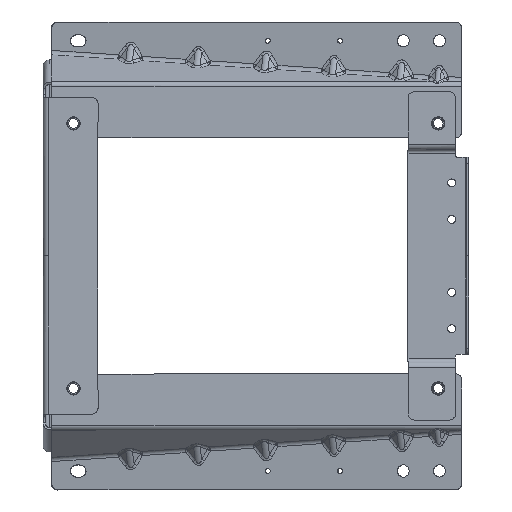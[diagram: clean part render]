
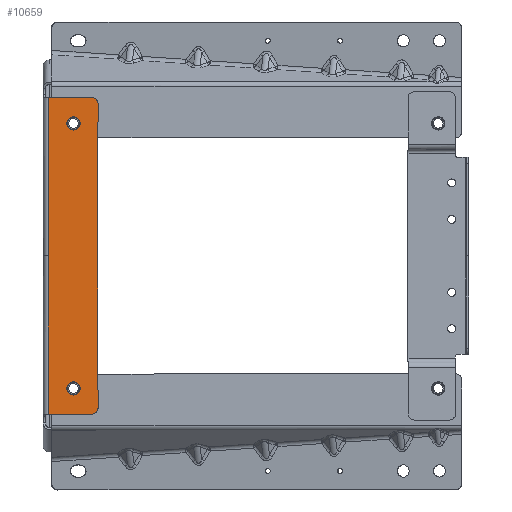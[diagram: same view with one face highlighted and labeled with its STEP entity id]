
A CAD part, top view. The second image highlights one B-rep face of the part: STEP entity #10659.
In plain terms, the highlighted planar face has unit normal (0, 0, 1).
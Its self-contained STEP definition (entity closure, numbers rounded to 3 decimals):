
#10501=AXIS2_PLACEMENT_3D('Circle Axis2P3D',#10499,#10500,$) ;
#10514=AXIS2_PLACEMENT_3D('Plane Axis2P3D',#10511,#10512,#10513) ;
#10518=AXIS2_PLACEMENT_3D('Circle Axis2P3D',#10516,#10517,$) ;
#10553=AXIS2_PLACEMENT_3D('Circle Axis2P3D',#10551,#10552,$) ;
#10560=AXIS2_PLACEMENT_3D('Circle Axis2P3D',#10558,#10559,$) ;
#10593=AXIS2_PLACEMENT_3D('Circle Axis2P3D',#10591,#10592,$) ;
#10602=AXIS2_PLACEMENT_3D('Circle Axis2P3D',#10600,#10601,$) ;
#10609=AXIS2_PLACEMENT_3D('Circle Axis2P3D',#10607,#10608,$) ;
#10616=AXIS2_PLACEMENT_3D('Circle Axis2P3D',#10614,#10615,$) ;
#10627=AXIS2_PLACEMENT_3D('Circle Axis2P3D',#10625,#10626,$) ;
#10636=AXIS2_PLACEMENT_3D('Circle Axis2P3D',#10634,#10635,$) ;
#10643=AXIS2_PLACEMENT_3D('Circle Axis2P3D',#10641,#10642,$) ;
#10650=AXIS2_PLACEMENT_3D('Circle Axis2P3D',#10648,#10649,$) ;
#9799=CARTESIAN_POINT('Vertex',(806.483,-801.162,118.288)) ;
#9802=CARTESIAN_POINT('Line Origine',(788.483,-801.172,118.288)) ;
#9806=CARTESIAN_POINT('Vertex',(770.483,-801.182,118.288)) ;
#9842=CARTESIAN_POINT('Line Origine',(770.412,-674.305,118.288)) ;
#9846=CARTESIAN_POINT('Vertex',(770.411,-671.002,118.288)) ;
#10496=CARTESIAN_POINT('Vertex',(810.018,-799.695,118.288)) ;
#10499=CARTESIAN_POINT('Axis2P3D Location',(806.481,-796.162,118.288)) ;
#10511=CARTESIAN_POINT('Axis2P3D Location',(766.341,-546.684,118.288)) ;
#10516=CARTESIAN_POINT('Axis2P3D Location',(806.481,-796.162,118.288)) ;
#10520=CARTESIAN_POINT('Vertex',(811.481,-796.159,118.288)) ;
#10523=CARTESIAN_POINT('Line Origine',(811.48,-795.909,118.288)) ;
#10527=CARTESIAN_POINT('Vertex',(811.48,-795.659,118.288)) ;
#10530=CARTESIAN_POINT('Line Origine',(811.445,-733.331,118.288)) ;
#10534=CARTESIAN_POINT('Vertex',(811.411,-671.002,118.288)) ;
#10537=CARTESIAN_POINT('Line Origine',(811.445,-608.674,118.288)) ;
#10541=CARTESIAN_POINT('Vertex',(811.48,-546.346,118.288)) ;
#10544=CARTESIAN_POINT('Line Origine',(811.48,-546.096,118.288)) ;
#10548=CARTESIAN_POINT('Vertex',(811.481,-545.846,118.288)) ;
#10551=CARTESIAN_POINT('Axis2P3D Location',(806.481,-545.843,118.288)) ;
#10555=CARTESIAN_POINT('Vertex',(810.018,-542.31,118.288)) ;
#10558=CARTESIAN_POINT('Axis2P3D Location',(806.481,-545.843,118.288)) ;
#10562=CARTESIAN_POINT('Vertex',(806.483,-540.843,118.288)) ;
#10565=CARTESIAN_POINT('Line Origine',(788.483,-540.833,118.288)) ;
#10569=CARTESIAN_POINT('Vertex',(770.483,-540.823,118.288)) ;
#10572=CARTESIAN_POINT('Line Origine',(770.447,-605.913,118.288)) ;
#10591=CARTESIAN_POINT('Axis2P3D Location',(791.321,-562.002,118.288)) ;
#10595=CARTESIAN_POINT('Vertex',(796.821,-562.002,118.288)) ;
#10597=CARTESIAN_POINT('Vertex',(791.321,-567.502,118.288)) ;
#10600=CARTESIAN_POINT('Axis2P3D Location',(791.321,-562.002,118.288)) ;
#10604=CARTESIAN_POINT('Vertex',(785.821,-562.002,118.288)) ;
#10607=CARTESIAN_POINT('Axis2P3D Location',(791.321,-562.002,118.288)) ;
#10611=CARTESIAN_POINT('Vertex',(791.321,-556.502,118.288)) ;
#10614=CARTESIAN_POINT('Axis2P3D Location',(791.321,-562.002,118.288)) ;
#10625=CARTESIAN_POINT('Axis2P3D Location',(791.321,-780.002,118.288)) ;
#10629=CARTESIAN_POINT('Vertex',(796.821,-780.002,118.288)) ;
#10631=CARTESIAN_POINT('Vertex',(791.321,-785.502,118.288)) ;
#10634=CARTESIAN_POINT('Axis2P3D Location',(791.321,-780.002,118.288)) ;
#10638=CARTESIAN_POINT('Vertex',(785.821,-780.002,118.288)) ;
#10641=CARTESIAN_POINT('Axis2P3D Location',(791.321,-780.002,118.288)) ;
#10645=CARTESIAN_POINT('Vertex',(791.321,-774.502,118.288)) ;
#10648=CARTESIAN_POINT('Axis2P3D Location',(791.321,-780.002,118.288)) ;
#9803=DIRECTION('Vector Direction',(1.,0.001,0.)) ;
#9843=DIRECTION('Vector Direction',(-0.001,1.,0.)) ;
#10500=DIRECTION('Axis2P3D Direction',(0.,0.,1.)) ;
#10512=DIRECTION('Axis2P3D Direction',(0.,0.,1.)) ;
#10513=DIRECTION('Axis2P3D XDirection',(0.001,-1.,0.)) ;
#10517=DIRECTION('Axis2P3D Direction',(0.,0.,1.)) ;
#10524=DIRECTION('Vector Direction',(-0.001,1.,0.)) ;
#10531=DIRECTION('Vector Direction',(-0.001,1.,0.)) ;
#10538=DIRECTION('Vector Direction',(-0.001,-1.,0.)) ;
#10545=DIRECTION('Vector Direction',(-0.001,-1.,0.)) ;
#10552=DIRECTION('Axis2P3D Direction',(0.,0.,1.)) ;
#10559=DIRECTION('Axis2P3D Direction',(0.,0.,1.)) ;
#10566=DIRECTION('Vector Direction',(-1.,0.001,0.)) ;
#10573=DIRECTION('Vector Direction',(-0.001,-1.,0.)) ;
#10592=DIRECTION('Axis2P3D Direction',(0.,0.,1.)) ;
#10601=DIRECTION('Axis2P3D Direction',(0.,0.,1.)) ;
#10608=DIRECTION('Axis2P3D Direction',(0.,0.,1.)) ;
#10615=DIRECTION('Axis2P3D Direction',(0.,0.,1.)) ;
#10626=DIRECTION('Axis2P3D Direction',(0.,0.,1.)) ;
#10635=DIRECTION('Axis2P3D Direction',(0.,0.,1.)) ;
#10642=DIRECTION('Axis2P3D Direction',(0.,0.,1.)) ;
#10649=DIRECTION('Axis2P3D Direction',(0.,0.,1.)) ;
#9804=VECTOR('Line Direction',#9803,1.) ;
#9844=VECTOR('Line Direction',#9843,1.) ;
#10525=VECTOR('Line Direction',#10524,1.) ;
#10532=VECTOR('Line Direction',#10531,1.) ;
#10539=VECTOR('Line Direction',#10538,1.) ;
#10546=VECTOR('Line Direction',#10545,1.) ;
#10567=VECTOR('Line Direction',#10566,1.) ;
#10574=VECTOR('Line Direction',#10573,1.) ;
#10578=ORIENTED_EDGE('',*,*,#9808,.T.) ;
#10579=ORIENTED_EDGE('',*,*,#10503,.F.) ;
#10580=ORIENTED_EDGE('',*,*,#10522,.F.) ;
#10581=ORIENTED_EDGE('',*,*,#10529,.T.) ;
#10582=ORIENTED_EDGE('',*,*,#10536,.T.) ;
#10583=ORIENTED_EDGE('',*,*,#10543,.F.) ;
#10584=ORIENTED_EDGE('',*,*,#10550,.F.) ;
#10585=ORIENTED_EDGE('',*,*,#10557,.T.) ;
#10586=ORIENTED_EDGE('',*,*,#10564,.T.) ;
#10587=ORIENTED_EDGE('',*,*,#10571,.T.) ;
#10588=ORIENTED_EDGE('',*,*,#10576,.T.) ;
#10589=ORIENTED_EDGE('',*,*,#9848,.T.) ;
#10620=ORIENTED_EDGE('',*,*,#10599,.T.) ;
#10621=ORIENTED_EDGE('',*,*,#10606,.T.) ;
#10622=ORIENTED_EDGE('',*,*,#10613,.F.) ;
#10623=ORIENTED_EDGE('',*,*,#10618,.F.) ;
#10654=ORIENTED_EDGE('',*,*,#10633,.T.) ;
#10655=ORIENTED_EDGE('',*,*,#10640,.T.) ;
#10656=ORIENTED_EDGE('',*,*,#10647,.F.) ;
#10657=ORIENTED_EDGE('',*,*,#10652,.F.) ;
#10624=FACE_BOUND('',#10619,.T.) ;
#10658=FACE_BOUND('',#10653,.T.) ;
#10659=ADVANCED_FACE('\X2\5E955EA7524D677F\X0\',(#10590,#10624,#10658),#10515,.T.) ;
#10502=CIRCLE('generated circle',#10501,5.) ;
#10519=CIRCLE('generated circle',#10518,5.) ;
#10554=CIRCLE('generated circle',#10553,5.) ;
#10561=CIRCLE('generated circle',#10560,5.) ;
#10594=CIRCLE('generated circle',#10593,5.5) ;
#10603=CIRCLE('generated circle',#10602,5.5) ;
#10610=CIRCLE('generated circle',#10609,5.5) ;
#10617=CIRCLE('generated circle',#10616,5.5) ;
#10628=CIRCLE('generated circle',#10627,5.5) ;
#10637=CIRCLE('generated circle',#10636,5.5) ;
#10644=CIRCLE('generated circle',#10643,5.5) ;
#10651=CIRCLE('generated circle',#10650,5.5) ;
#9808=EDGE_CURVE('',#9807,#9800,#9805,.T.) ;
#9848=EDGE_CURVE('',#9847,#9807,#9845,.F.) ;
#10503=EDGE_CURVE('',#10497,#9800,#10502,.F.) ;
#10522=EDGE_CURVE('',#10521,#10497,#10519,.F.) ;
#10529=EDGE_CURVE('',#10521,#10528,#10526,.T.) ;
#10536=EDGE_CURVE('',#10528,#10535,#10533,.T.) ;
#10543=EDGE_CURVE('',#10542,#10535,#10540,.T.) ;
#10550=EDGE_CURVE('',#10549,#10542,#10547,.T.) ;
#10557=EDGE_CURVE('',#10549,#10556,#10554,.T.) ;
#10564=EDGE_CURVE('',#10556,#10563,#10561,.T.) ;
#10571=EDGE_CURVE('',#10563,#10570,#10568,.T.) ;
#10576=EDGE_CURVE('',#10570,#9847,#10575,.T.) ;
#10599=EDGE_CURVE('',#10596,#10598,#10594,.F.) ;
#10606=EDGE_CURVE('',#10598,#10605,#10603,.F.) ;
#10613=EDGE_CURVE('',#10612,#10605,#10610,.T.) ;
#10618=EDGE_CURVE('',#10596,#10612,#10617,.T.) ;
#10633=EDGE_CURVE('',#10630,#10632,#10628,.F.) ;
#10640=EDGE_CURVE('',#10632,#10639,#10637,.F.) ;
#10647=EDGE_CURVE('',#10646,#10639,#10644,.T.) ;
#10652=EDGE_CURVE('',#10630,#10646,#10651,.T.) ;
#10577=EDGE_LOOP('',(#10578,#10579,#10580,#10581,#10582,#10583,#10584,#10585,#10586,#10587,#10588,#10589)) ;
#10619=EDGE_LOOP('',(#10620,#10621,#10622,#10623)) ;
#10653=EDGE_LOOP('',(#10654,#10655,#10656,#10657)) ;
#10590=FACE_OUTER_BOUND('',#10577,.T.) ;
#9805=LINE('Line',#9802,#9804) ;
#9845=LINE('Line',#9842,#9844) ;
#10526=LINE('Line',#10523,#10525) ;
#10533=LINE('Line',#10530,#10532) ;
#10540=LINE('Line',#10537,#10539) ;
#10547=LINE('Line',#10544,#10546) ;
#10568=LINE('Line',#10565,#10567) ;
#10575=LINE('Line',#10572,#10574) ;
#10515=PLANE('Plane',#10514) ;
#9800=VERTEX_POINT('',#9799) ;
#9807=VERTEX_POINT('',#9806) ;
#9847=VERTEX_POINT('',#9846) ;
#10497=VERTEX_POINT('',#10496) ;
#10521=VERTEX_POINT('',#10520) ;
#10528=VERTEX_POINT('',#10527) ;
#10535=VERTEX_POINT('',#10534) ;
#10542=VERTEX_POINT('',#10541) ;
#10549=VERTEX_POINT('',#10548) ;
#10556=VERTEX_POINT('',#10555) ;
#10563=VERTEX_POINT('',#10562) ;
#10570=VERTEX_POINT('',#10569) ;
#10596=VERTEX_POINT('',#10595) ;
#10598=VERTEX_POINT('',#10597) ;
#10605=VERTEX_POINT('',#10604) ;
#10612=VERTEX_POINT('',#10611) ;
#10630=VERTEX_POINT('',#10629) ;
#10632=VERTEX_POINT('',#10631) ;
#10639=VERTEX_POINT('',#10638) ;
#10646=VERTEX_POINT('',#10645) ;
